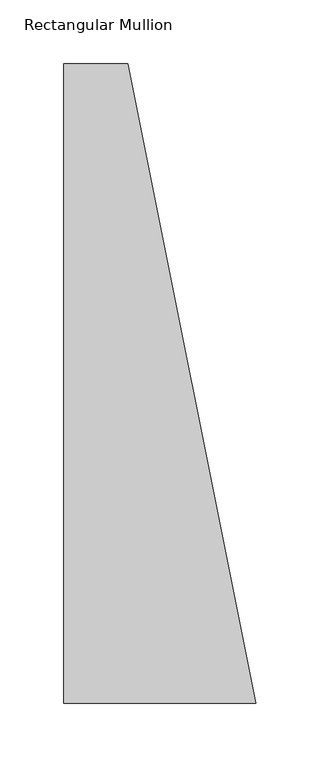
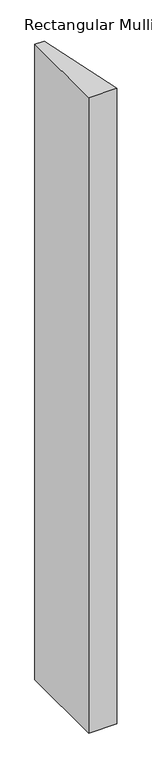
"""IFC4 building model written with IfcOpenShell, lengths in millimetres: member geometry, Rectangular Mullion : 500(350+150)x150x50mm."""

from ifc_helpers import new_model, si_unit, frame, origin, place, context, project, spatial, polyline, outline, extrude, source, transform, mapped, element, save


def rectangular_mullion_e42e3c63(model_context):
    return source(origin(), model_context, "Body", "SweptSolid", [
        extrude(outline(polyline([(-150.0, 150.0), (-100.0, 150.0), (0.0, -350.0), (-150.0, -350.0), (-150.0, 150.0)])), frame((0.0, 0.0, -3600.0), z_axis=(0.0, 0.0, 1.0), x_axis=(1.0, 0.0, 0.0)), (0.0, 0.0, 1.0), 3600.0),
    ])


if __name__ == "__main__":
    model = new_model("IFC4")
    model_context = context("Model", 3, world=origin())
    ifc_project = project(units=[si_unit("LENGTHUNIT", "METRE", prefix="MILLI")], contexts=[model_context])
    site = spatial("IfcSite", under=ifc_project)
    building = spatial("IfcBuilding", under=site)
    placement = place(None, origin())
    rectangular_mullion_shape = rectangular_mullion_e42e3c63(model_context)
    element("IfcMember", 1, ObjectType="Rectangular Mullion : 500(350+150)x150x50mm", at=placement, inside=building, context=model_context, shape_type="MappedRepresentation", body=[
        mapped(rectangular_mullion_shape, transform((0.0, 0.0, 0.0), x_axis=(1.0, 0.0, 0.0), y_axis=(0.0, 1.0, 0.0), z_axis=(0.0, 0.0, 1.0))),
    ])
    save(model, "model.ifc")
